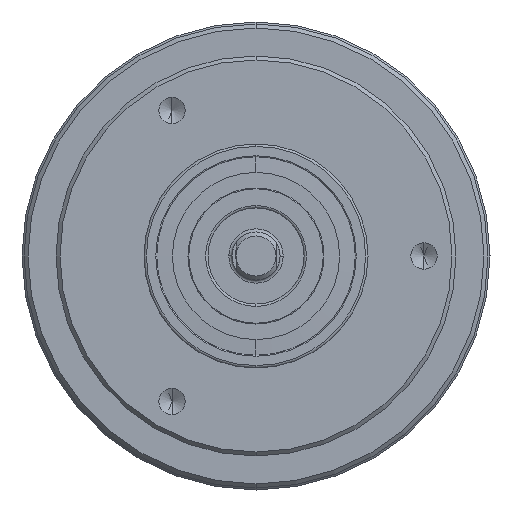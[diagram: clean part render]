
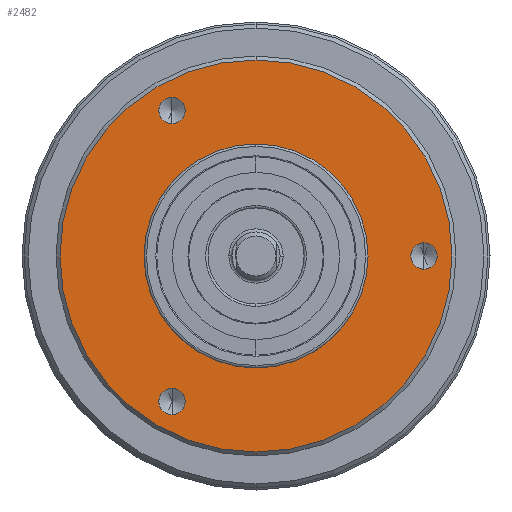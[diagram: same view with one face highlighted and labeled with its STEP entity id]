
A CAD part, front view. The second image highlights one B-rep face of the part: STEP entity #2482.
In plain terms, the highlighted planar face has unit normal (0, -1, 0).
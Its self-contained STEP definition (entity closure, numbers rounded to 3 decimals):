
#39 = CARTESIAN_POINT ( 'NONE',  ( 21., 0., 1.65 ) ) ;
#52 = CARTESIAN_POINT ( 'NONE',  ( -10.5, 0., -19.837 ) ) ;
#68 = DIRECTION ( 'NONE',  ( 0., 0., -1. ) ) ;
#69 = DIRECTION ( 'NONE',  ( 0., -1., 0. ) ) ;
#70 = CARTESIAN_POINT ( 'NONE',  ( 21., 0., 0. ) ) ;
#71 = AXIS2_PLACEMENT_3D ( 'NONE', #70, #69, #68 ) ;
#72 = CIRCLE ( 'NONE', #71, 1.65 ) ;
#78 = DIRECTION ( 'NONE',  ( 0., 0., -1. ) ) ;
#79 = DIRECTION ( 'NONE',  ( 0., -1., 0. ) ) ;
#80 = CARTESIAN_POINT ( 'NONE',  ( 0., 0., 0. ) ) ;
#81 = AXIS2_PLACEMENT_3D ( 'NONE', #80, #79, #78 ) ;
#82 = CIRCLE ( 'NONE', #81, 14. ) ;
#103 = AXIS2_PLACEMENT_3D ( 'NONE', #163, #121, #165 ) ;
#120 = CIRCLE ( 'NONE', #103, 14. ) ;
#121 = DIRECTION ( 'NONE',  ( 0., -1., 0. ) ) ;
#163 = CARTESIAN_POINT ( 'NONE',  ( 0., 0., 0. ) ) ;
#165 = DIRECTION ( 'NONE',  ( 0., 0., -1. ) ) ;
#2173 = DIRECTION ( 'NONE',  ( 0., 0., -1. ) ) ;
#2174 = DIRECTION ( 'NONE',  ( 0., -1., 0. ) ) ;
#2175 = CARTESIAN_POINT ( 'NONE',  ( 21., 0., 0. ) ) ;
#2176 = AXIS2_PLACEMENT_3D ( 'NONE', #2175, #2174, #2173 ) ;
#2177 = CIRCLE ( 'NONE', #2176, 1.65 ) ;
#2178 = DIRECTION ( 'NONE',  ( 0., 0., -1. ) ) ;
#2179 = DIRECTION ( 'NONE',  ( 0., -1., 0. ) ) ;
#2180 = AXIS2_PLACEMENT_3D ( 'NONE', #2186, #2179, #2178 ) ;
#2181 = CIRCLE ( 'NONE', #2180, 24.5 ) ;
#2186 = CARTESIAN_POINT ( 'NONE',  ( 0., 0., 0. ) ) ;
#2189 = DIRECTION ( 'NONE',  ( 0., 0., -1. ) ) ;
#2190 = DIRECTION ( 'NONE',  ( 0., -1., 0. ) ) ;
#2191 = CARTESIAN_POINT ( 'NONE',  ( 0., 0., 0. ) ) ;
#2192 = AXIS2_PLACEMENT_3D ( 'NONE', #2191, #2190, #2189 ) ;
#2193 = FACE_BOUND ( 'NONE', #2565, .T. ) ;
#2194 = FACE_BOUND ( 'NONE', #2487, .T. ) ;
#2195 = FACE_BOUND ( 'NONE', #2483, .T. ) ;
#2196 = FACE_BOUND ( 'NONE', #2471, .T. ) ;
#2215 = DIRECTION ( 'NONE',  ( 0., 0., -1. ) ) ;
#2216 = DIRECTION ( 'NONE',  ( 0., -1., 0. ) ) ;
#2217 = CARTESIAN_POINT ( 'NONE',  ( -10.5, 0., -18.187 ) ) ;
#2218 = AXIS2_PLACEMENT_3D ( 'NONE', #2217, #2216, #2215 ) ;
#2219 = CIRCLE ( 'NONE', #2218, 1.65 ) ;
#2220 = CARTESIAN_POINT ( 'NONE',  ( -10.5, 0., -16.537 ) ) ;
#2285 = CARTESIAN_POINT ( 'NONE',  ( -10.5, 0., 16.537 ) ) ;
#2286 = DIRECTION ( 'NONE',  ( 0., 0., -1. ) ) ;
#2287 = DIRECTION ( 'NONE',  ( 0., -1., 0. ) ) ;
#2288 = AXIS2_PLACEMENT_3D ( 'NONE', #2330, #2287, #2286 ) ;
#2289 = CIRCLE ( 'NONE', #2288, 1.65 ) ;
#2290 = FACE_OUTER_BOUND ( 'NONE', #2490, .T. ) ;
#2291 = DIRECTION ( 'NONE',  ( 0., 0., -1. ) ) ;
#2292 = DIRECTION ( 'NONE',  ( 0., -1., 0. ) ) ;
#2293 = AXIS2_PLACEMENT_3D ( 'NONE', #2300, #2292, #2291 ) ;
#2294 = CIRCLE ( 'NONE', #2293, 1.65 ) ;
#2295 = PLANE ( 'NONE',  #2192 ) ;
#2300 = CARTESIAN_POINT ( 'NONE',  ( -10.5, 0., 18.187 ) ) ;
#2303 = DIRECTION ( 'NONE',  ( 0., 0., -1. ) ) ;
#2304 = DIRECTION ( 'NONE',  ( 0., -1., 0. ) ) ;
#2305 = CARTESIAN_POINT ( 'NONE',  ( -10.5, 0., -18.187 ) ) ;
#2306 = AXIS2_PLACEMENT_3D ( 'NONE', #2305, #2304, #2303 ) ;
#2307 = CIRCLE ( 'NONE', #2306, 1.65 ) ;
#2330 = CARTESIAN_POINT ( 'NONE',  ( -10.5, 0., 18.187 ) ) ;
#2331 = CARTESIAN_POINT ( 'NONE',  ( -10.5, 0., 19.837 ) ) ;
#2422 = VERTEX_POINT ( 'NONE', #2220 ) ;
#2424 = EDGE_CURVE ( 'NONE', #2422, #2551, #2219, .T. ) ;
#2442 = VERTEX_POINT ( 'NONE', #2331 ) ;
#2444 = EDGE_CURVE ( 'NONE', #2442, #2445, #2289, .T. ) ;
#2445 = VERTEX_POINT ( 'NONE', #2285 ) ;
#2471 = EDGE_LOOP ( 'NONE', ( #2481, #2566 ) ) ;
#2472 = EDGE_CURVE ( 'NONE', #2551, #2422, #2307, .T. ) ;
#2473 = ORIENTED_EDGE ( 'NONE', *, *, #4337, .T. ) ;
#2474 = ORIENTED_EDGE ( 'NONE', *, *, #2486, .T. ) ;
#2478 = EDGE_CURVE ( 'NONE', #2445, #2442, #2294, .T. ) ;
#2480 = ORIENTED_EDGE ( 'NONE', *, *, #2472, .F. ) ;
#2481 = ORIENTED_EDGE ( 'NONE', *, *, #2559, .F. ) ;
#2482 = ADVANCED_FACE ( 'NONE', ( #2290, #2196, #2195, #2194, #2193 ), #2295, .T. ) ;
#2483 = EDGE_LOOP ( 'NONE', ( #2480, #2557 ) ) ;
#2484 = ORIENTED_EDGE ( 'NONE', *, *, #2491, .F. ) ;
#2486 = EDGE_CURVE ( 'NONE', #4374, #4352, #2181, .T. ) ;
#2487 = EDGE_LOOP ( 'NONE', ( #2556, #2560 ) ) ;
#2490 = EDGE_LOOP ( 'NONE', ( #2474, #2473 ) ) ;
#2491 = EDGE_CURVE ( 'NONE', #3616, #2538, #2177, .T. ) ;
#2530 = EDGE_CURVE ( 'NONE', #4474, #4479, #82, .T. ) ;
#2538 = VERTEX_POINT ( 'NONE', #39 ) ;
#2540 = EDGE_CURVE ( 'NONE', #2538, #3616, #72, .T. ) ;
#2551 = VERTEX_POINT ( 'NONE', #52 ) ;
#2555 = ORIENTED_EDGE ( 'NONE', *, *, #2540, .F. ) ;
#2556 = ORIENTED_EDGE ( 'NONE', *, *, #2478, .F. ) ;
#2557 = ORIENTED_EDGE ( 'NONE', *, *, #2424, .F. ) ;
#2559 = EDGE_CURVE ( 'NONE', #4479, #4474, #120, .T. ) ;
#2560 = ORIENTED_EDGE ( 'NONE', *, *, #2444, .F. ) ;
#2565 = EDGE_LOOP ( 'NONE', ( #2484, #2555 ) ) ;
#2566 = ORIENTED_EDGE ( 'NONE', *, *, #2530, .F. ) ;
#3616 = VERTEX_POINT ( 'NONE', #3821 ) ;
#3821 = CARTESIAN_POINT ( 'NONE',  ( 21., 0., -1.65 ) ) ;
#4182 = DIRECTION ( 'NONE',  ( 0., 0., -1. ) ) ;
#4183 = DIRECTION ( 'NONE',  ( 0., -1., 0. ) ) ;
#4184 = AXIS2_PLACEMENT_3D ( 'NONE', #4191, #4183, #4182 ) ;
#4185 = CIRCLE ( 'NONE', #4184, 24.5 ) ;
#4191 = CARTESIAN_POINT ( 'NONE',  ( 0., 0., 0. ) ) ;
#4214 = CARTESIAN_POINT ( 'NONE',  ( 0., 0., -24.5 ) ) ;
#4337 = EDGE_CURVE ( 'NONE', #4352, #4374, #4185, .T. ) ;
#4352 = VERTEX_POINT ( 'NONE', #4214 ) ;
#4374 = VERTEX_POINT ( 'NONE', #4565 ) ;
#4474 = VERTEX_POINT ( 'NONE', #4748 ) ;
#4479 = VERTEX_POINT ( 'NONE', #4741 ) ;
#4565 = CARTESIAN_POINT ( 'NONE',  ( 0., 0., 24.5 ) ) ;
#4741 = CARTESIAN_POINT ( 'NONE',  ( 0., 0., -14. ) ) ;
#4748 = CARTESIAN_POINT ( 'NONE',  ( 0., 0., 14. ) ) ;
